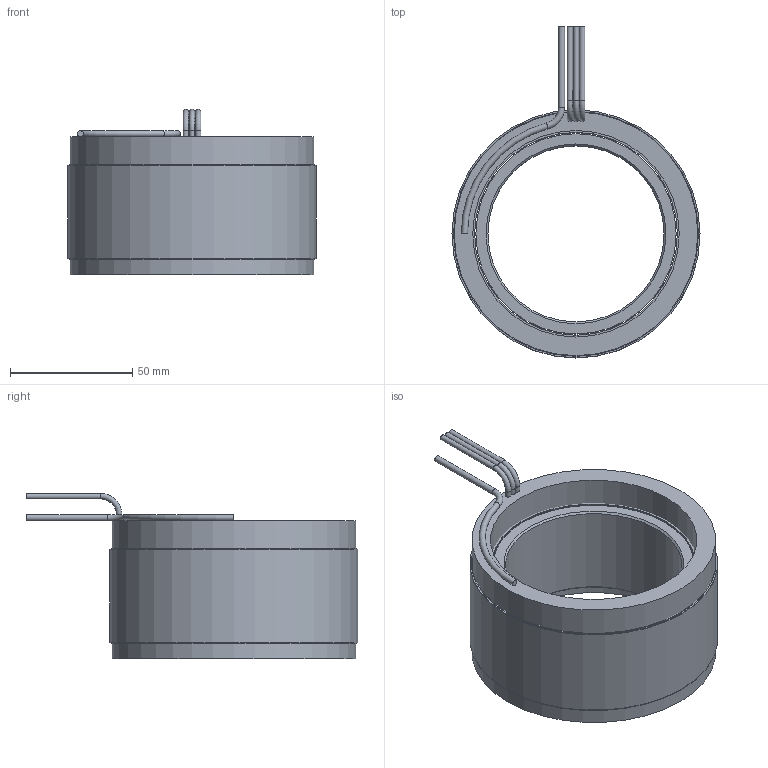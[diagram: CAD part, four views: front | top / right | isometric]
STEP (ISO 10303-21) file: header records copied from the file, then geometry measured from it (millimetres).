
FILE_DESCRIPTION (( 'STEP AP214' ), '1' );
FILE_NAME ('6100395-05.STEP', '2020-12-15T17:35:41', ( '' ), ( '' ), 'SwSTEP 2.0', 'SolidWorks 2016', '' );
FILE_SCHEMA (( 'AUTOMOTIVE_DESIGN' ));
Length unit declared in the file: inch
Products named in the file (10): 4400104-00; COMP4500561-XX(COIL)_COMP4500561-05(COIL); 4250383-XX_4250383-05; 4450192-XX_4450192-05; 4500561-XX_4500561-05; 6100395-05; 4600568-00; 4150181-XX_4150181-05
Assembly tree (10 placements, depth 4):
  6100395-05
    4250383-XX_4250383-05
      4150181-XX_4150181-05
    4500561-XX_4500561-05
      4450192-XX_4450192-05
        4450192-XX_4450192-05
        4400104-00
        4400104-00
        4600568-00  x2
      COMP4500561-XX(COIL)_COMP4500561-05(COIL)
Bounding box: 101.6 x 135.89 x 67.69 mm (x, y, z)
Volume: 274830.1 mm3; surface area: 108018.8 mm2
Topology: 8 solids, 8 shells, 47 faces, 74 edges, 46 vertices
Faces by surface type: cylinder 21, plane 19, torus 5, cone 2
Full cylindrical faces by diameter (mm): 2.286 x6, 2.54 x1, 72.136 x1, 82.042 x1, 83.058 x5, 84.582 x1, 99.822 x1, 100.33 x2, 101.6 x3
Entity records: 1305 total; most frequent: DIRECTION 202, CARTESIAN_POINT 143, AXIS2_PLACEMENT_3D 101, ORIENTED_EDGE 84, EDGE_LOOP 84, FACE_OUTER_BOUND 67, ADVANCED_FACE 43, CIRCLE 42
